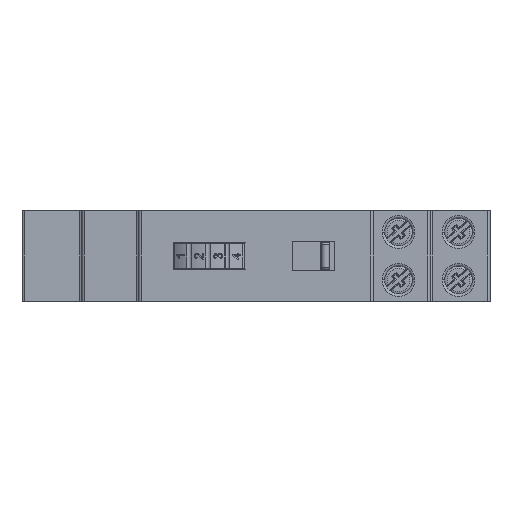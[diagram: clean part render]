
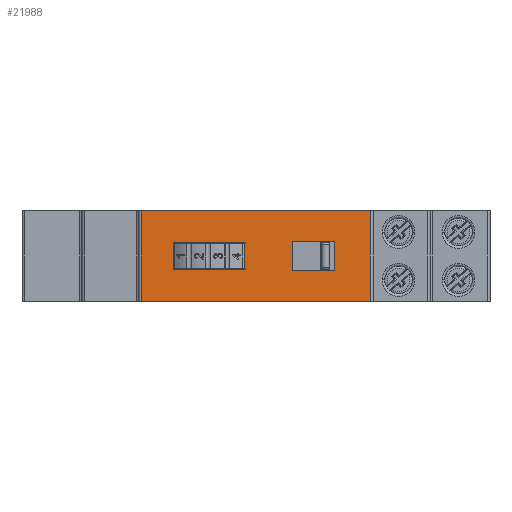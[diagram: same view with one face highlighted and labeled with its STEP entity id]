
A CAD part, left-side view. The second image highlights one B-rep face of the part: STEP entity #21988.
In plain terms, the highlighted planar face has unit normal (-1, 0, 0).
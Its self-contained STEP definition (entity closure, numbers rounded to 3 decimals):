
#3841 = CARTESIAN_POINT ( 'NONE',  ( -78.635, 27.577, 8.65 ) ) ;
#3842 = DIRECTION ( 'NONE',  ( 0., 1., 0. ) ) ;
#3843 = VECTOR ( 'NONE', #3842, 1000. ) ;
#3844 = CARTESIAN_POINT ( 'NONE',  ( -78.635, -79.443, 8.65 ) ) ;
#3845 = LINE ( 'NONE', #3844, #3843 ) ;
#3855 = CARTESIAN_POINT ( 'NONE',  ( -78.635, 21.354, -2.682 ) ) ;
#3856 = DIRECTION ( 'NONE',  ( 0., 1., 0. ) ) ;
#3857 = VECTOR ( 'NONE', #3856, 1000. ) ;
#3858 = CARTESIAN_POINT ( 'NONE',  ( -78.635, -79.443, -2.682 ) ) ;
#3859 = LINE ( 'NONE', #3858, #3857 ) ;
#3860 = CARTESIAN_POINT ( 'NONE',  ( -78.635, 7.709, -2.682 ) ) ;
#3861 = DIRECTION ( 'NONE',  ( 0., 0., -1. ) ) ;
#3862 = VECTOR ( 'NONE', #3861, 1000. ) ;
#3863 = CARTESIAN_POINT ( 'NONE',  ( -78.635, 7.709, -2.575 ) ) ;
#3864 = LINE ( 'NONE', #3863, #3862 ) ;
#3865 = CARTESIAN_POINT ( 'NONE',  ( -78.635, 7.709, 2.682 ) ) ;
#3866 = CARTESIAN_POINT ( 'NONE',  ( -78.635, 21.354, 2.682 ) ) ;
#3867 = DIRECTION ( 'NONE',  ( 0., -1., 0. ) ) ;
#3868 = VECTOR ( 'NONE', #3867, 1000. ) ;
#3869 = CARTESIAN_POINT ( 'NONE',  ( -78.635, 7.817, 2.682 ) ) ;
#3870 = LINE ( 'NONE', #3869, #3868 ) ;
#3872 = CARTESIAN_POINT ( 'NONE',  ( -78.635, -1.423, 2.8 ) ) ;
#3873 = DIRECTION ( 'NONE',  ( 0., -1., 0. ) ) ;
#3874 = VECTOR ( 'NONE', #3873, 1000. ) ;
#3875 = CARTESIAN_POINT ( 'NONE',  ( -78.635, -9.473, 2.8 ) ) ;
#3876 = LINE ( 'NONE', #3875, #3874 ) ;
#3877 = DIRECTION ( 'NONE',  ( 0., 0., 1. ) ) ;
#3878 = VECTOR ( 'NONE', #3877, 1000. ) ;
#3879 = CARTESIAN_POINT ( 'NONE',  ( -78.635, 21.354, 2.575 ) ) ;
#3880 = LINE ( 'NONE', #3879, #3878 ) ;
#3922 = DIRECTION ( 'NONE',  ( 0., 1., 0. ) ) ;
#3923 = VECTOR ( 'NONE', #3922, 1000. ) ;
#3924 = CARTESIAN_POINT ( 'NONE',  ( -78.635, -1.473, -2.8 ) ) ;
#3925 = LINE ( 'NONE', #3924, #3923 ) ;
#3926 = CARTESIAN_POINT ( 'NONE',  ( -78.635, -9.523, -2.8 ) ) ;
#3927 = DIRECTION ( 'NONE',  ( 0., 0., -1. ) ) ;
#3928 = VECTOR ( 'NONE', #3927, 1000. ) ;
#3929 = CARTESIAN_POINT ( 'NONE',  ( -78.635, -9.523, -2.75 ) ) ;
#3930 = LINE ( 'NONE', #3929, #3928 ) ;
#3931 = CARTESIAN_POINT ( 'NONE',  ( -78.635, -9.523, 2.8 ) ) ;
#3945 = CARTESIAN_POINT ( 'NONE',  ( -78.635, 27.577, -8.65 ) ) ;
#3946 = DIRECTION ( 'NONE',  ( 0., 0., -1. ) ) ;
#3947 = VECTOR ( 'NONE', #3946, 1000. ) ;
#3948 = CARTESIAN_POINT ( 'NONE',  ( -78.635, 27.577, 8.75 ) ) ;
#3953 = LINE ( 'NONE', #3948, #3947 ) ;
#4016 = FACE_OUTER_BOUND ( 'NONE', #21715, .T. ) ;
#4017 = FACE_BOUND ( 'NONE', #21909, .T. ) ;
#4018 = FACE_BOUND ( 'NONE', #21882, .T. ) ;
#4182 = CARTESIAN_POINT ( 'NONE',  ( -78.635, -1.423, -2.8 ) ) ;
#4275 = DIRECTION ( 'NONE',  ( 0., 0., 1. ) ) ;
#4276 = DIRECTION ( 'NONE',  ( -1., 0., 0. ) ) ;
#4277 = CARTESIAN_POINT ( 'NONE',  ( -78.635, -79.443, 8.75 ) ) ;
#4278 = AXIS2_PLACEMENT_3D ( 'NONE', #4277, #4276, #4275 ) ;
#4279 = PLANE ( 'NONE',  #4278 ) ;
#4869 = CARTESIAN_POINT ( 'NONE',  ( -78.635, -16.423, 8.65 ) ) ;
#4893 = CARTESIAN_POINT ( 'NONE',  ( -78.635, -16.423, -8.65 ) ) ;
#4933 = DIRECTION ( 'NONE',  ( 0., 0., 1. ) ) ;
#4934 = VECTOR ( 'NONE', #4933, 1000. ) ;
#4935 = CARTESIAN_POINT ( 'NONE',  ( -78.635, -1.423, 2.75 ) ) ;
#4936 = LINE ( 'NONE', #4935, #4934 ) ;
#4957 = DIRECTION ( 'NONE',  ( 0., -1., 0. ) ) ;
#4958 = VECTOR ( 'NONE', #4957, 1000. ) ;
#4959 = CARTESIAN_POINT ( 'NONE',  ( -78.635, -16.923, -8.65 ) ) ;
#4960 = LINE ( 'NONE', #4959, #4958 ) ;
#4984 = DIRECTION ( 'NONE',  ( 0., 0., 1. ) ) ;
#4985 = VECTOR ( 'NONE', #4984, 1000. ) ;
#4986 = CARTESIAN_POINT ( 'NONE',  ( -78.635, -16.423, 8.65 ) ) ;
#4987 = LINE ( 'NONE', #4986, #4985 ) ;
#21715 = EDGE_LOOP ( 'NONE', ( #21829, #21870, #22242, #22235 ) ) ;
#21829 = ORIENTED_EDGE ( 'NONE', *, *, #21830, .T. ) ;
#21830 = EDGE_CURVE ( 'NONE', #22222, #21831, #3845, .T. ) ;
#21831 = VERTEX_POINT ( 'NONE', #3841 ) ;
#21870 = ORIENTED_EDGE ( 'NONE', *, *, #21871, .T. ) ;
#21871 = EDGE_CURVE ( 'NONE', #21831, #21872, #3953, .T. ) ;
#21872 = VERTEX_POINT ( 'NONE', #3945 ) ;
#21877 = ORIENTED_EDGE ( 'NONE', *, *, #22247, .T. ) ;
#21882 = EDGE_LOOP ( 'NONE', ( #21883, #21887, #21890, #21907 ) ) ;
#21883 = ORIENTED_EDGE ( 'NONE', *, *, #21884, .T. ) ;
#21884 = EDGE_CURVE ( 'NONE', #21885, #21886, #3870, .T. ) ;
#21885 = VERTEX_POINT ( 'NONE', #3866 ) ;
#21886 = VERTEX_POINT ( 'NONE', #3865 ) ;
#21887 = ORIENTED_EDGE ( 'NONE', *, *, #21888, .T. ) ;
#21888 = EDGE_CURVE ( 'NONE', #21886, #21889, #3864, .T. ) ;
#21889 = VERTEX_POINT ( 'NONE', #3860 ) ;
#21890 = ORIENTED_EDGE ( 'NONE', *, *, #21891, .T. ) ;
#21891 = EDGE_CURVE ( 'NONE', #21889, #21892, #3859, .T. ) ;
#21892 = VERTEX_POINT ( 'NONE', #3855 ) ;
#21907 = ORIENTED_EDGE ( 'NONE', *, *, #21908, .T. ) ;
#21908 = EDGE_CURVE ( 'NONE', #21892, #21885, #3880, .T. ) ;
#21909 = EDGE_LOOP ( 'NONE', ( #21910, #21914, #21917, #21877 ) ) ;
#21910 = ORIENTED_EDGE ( 'NONE', *, *, #21911, .T. ) ;
#21911 = EDGE_CURVE ( 'NONE', #21912, #21913, #3876, .T. ) ;
#21912 = VERTEX_POINT ( 'NONE', #3872 ) ;
#21913 = VERTEX_POINT ( 'NONE', #3931 ) ;
#21914 = ORIENTED_EDGE ( 'NONE', *, *, #21915, .T. ) ;
#21915 = EDGE_CURVE ( 'NONE', #21913, #21916, #3930, .T. ) ;
#21916 = VERTEX_POINT ( 'NONE', #3926 ) ;
#21917 = ORIENTED_EDGE ( 'NONE', *, *, #21918, .T. ) ;
#21918 = EDGE_CURVE ( 'NONE', #21916, #21919, #3925, .T. ) ;
#21919 = VERTEX_POINT ( 'NONE', #4182 ) ;
#21988 = ADVANCED_FACE ( 'NONE', ( #4018, #4017, #4016 ), #4279, .T. ) ;
#22219 = VERTEX_POINT ( 'NONE', #4893 ) ;
#22222 = VERTEX_POINT ( 'NONE', #4869 ) ;
#22235 = ORIENTED_EDGE ( 'NONE', *, *, #22236, .T. ) ;
#22236 = EDGE_CURVE ( 'NONE', #22219, #22222, #4987, .T. ) ;
#22242 = ORIENTED_EDGE ( 'NONE', *, *, #22243, .T. ) ;
#22243 = EDGE_CURVE ( 'NONE', #21872, #22219, #4960, .T. ) ;
#22247 = EDGE_CURVE ( 'NONE', #21919, #21912, #4936, .T. ) ;
